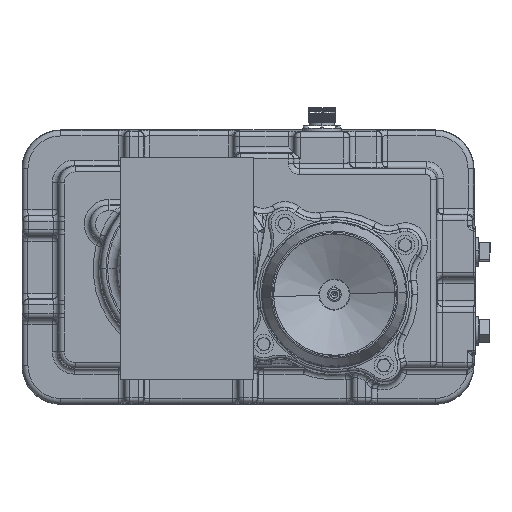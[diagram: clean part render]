
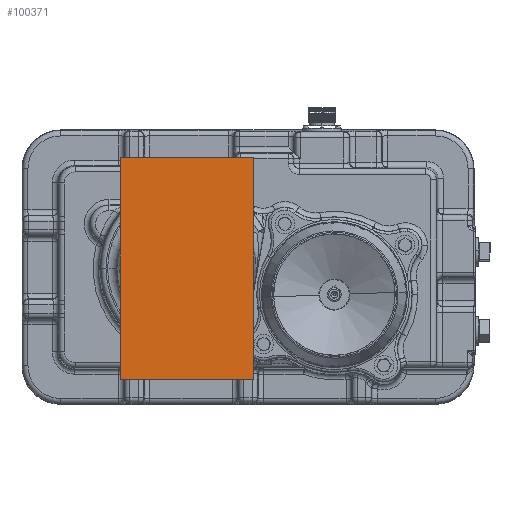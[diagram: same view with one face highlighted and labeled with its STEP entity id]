
A CAD part, front view. The second image highlights one B-rep face of the part: STEP entity #100371.
In plain terms, the highlighted planar face has unit normal (0, -1, 0).
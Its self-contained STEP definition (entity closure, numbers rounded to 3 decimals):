
#24261 = FACE_OUTER_BOUND ( 'NONE', #113239, .T. ) ;
#30226 = CARTESIAN_POINT ( 'NONE',  ( 6., 0., 0. ) ) ;
#59745 = AXIS2_PLACEMENT_3D ( 'NONE', #119726, #119721, #119722 ) ;
#61244 = EDGE_CURVE ( 'NONE', #106362, #106422, #63538, .T. ) ;
#61246 = EDGE_CURVE ( 'NONE', #106464, #106362, #64140, .T. ) ;
#61358 = EDGE_CURVE ( 'NONE', #73068, #106464, #63673, .T. ) ;
#61466 = EDGE_CURVE ( 'NONE', #106422, #73068, #63416, .T. ) ;
#63332 = VECTOR ( 'NONE', #113187, 39.37 ) ;
#63416 = LINE ( 'NONE', #113385, #63332 ) ;
#63431 = VECTOR ( 'NONE', #114515, 39.37 ) ;
#63536 = VECTOR ( 'NONE', #114268, 39.37 ) ;
#63538 = LINE ( 'NONE', #114266, #63536 ) ;
#63673 = LINE ( 'NONE', #114516, #63431 ) ;
#64138 = VECTOR ( 'NONE', #114273, 39.37 ) ;
#64140 = LINE ( 'NONE', #114270, #64138 ) ;
#73068 = VERTEX_POINT ( 'NONE', #30226 ) ;
#86395 = CARTESIAN_POINT ( 'NONE',  ( 6., 0., -10. ) ) ;
#86626 = CARTESIAN_POINT ( 'NONE',  ( 0., 0., -10. ) ) ;
#87143 = CARTESIAN_POINT ( 'NONE',  ( 0., 0., 0. ) ) ;
#100371 = ADVANCED_FACE ( 'NONE', ( #24261 ), #119725, .T. ) ;
#106362 = VERTEX_POINT ( 'NONE', #86626 ) ;
#106422 = VERTEX_POINT ( 'NONE', #86395 ) ;
#106464 = VERTEX_POINT ( 'NONE', #87143 ) ;
#113187 = DIRECTION ( 'NONE',  ( 0., 0., 1. ) ) ;
#113239 = EDGE_LOOP ( 'NONE', ( #122367, #122376, #122378, #122387 ) ) ;
#113385 = CARTESIAN_POINT ( 'NONE',  ( 6., 0., 0. ) ) ;
#114266 = CARTESIAN_POINT ( 'NONE',  ( 6., 0., -10. ) ) ;
#114268 = DIRECTION ( 'NONE',  ( 1., 0., 0. ) ) ;
#114270 = CARTESIAN_POINT ( 'NONE',  ( 0., 0., 0. ) ) ;
#114273 = DIRECTION ( 'NONE',  ( 0., 0., -1. ) ) ;
#114515 = DIRECTION ( 'NONE',  ( -1., 0., 0. ) ) ;
#114516 = CARTESIAN_POINT ( 'NONE',  ( 6., 0., 0. ) ) ;
#119721 = DIRECTION ( 'NONE',  ( 0., -1., 0. ) ) ;
#119722 = DIRECTION ( 'NONE',  ( -1., 0., 0. ) ) ;
#119725 = PLANE ( 'NONE',  #59745 ) ;
#119726 = CARTESIAN_POINT ( 'NONE',  ( 0., 0., 0. ) ) ;
#122367 = ORIENTED_EDGE ( 'NONE', *, *, #61358, .T. ) ;
#122376 = ORIENTED_EDGE ( 'NONE', *, *, #61246, .T. ) ;
#122378 = ORIENTED_EDGE ( 'NONE', *, *, #61244, .T. ) ;
#122387 = ORIENTED_EDGE ( 'NONE', *, *, #61466, .T. ) ;
